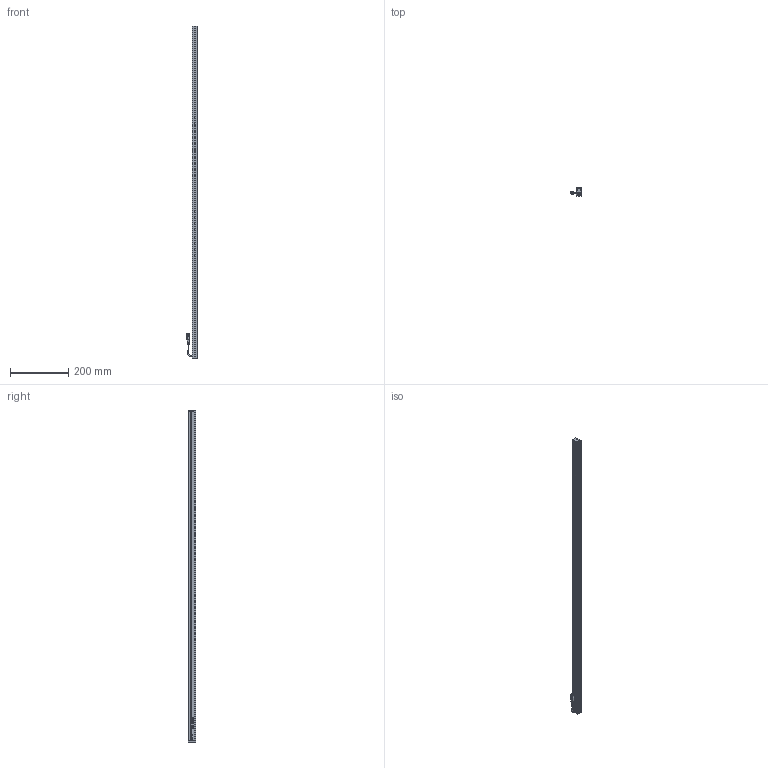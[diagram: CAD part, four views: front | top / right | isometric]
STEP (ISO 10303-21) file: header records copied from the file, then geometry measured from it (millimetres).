
FILE_DESCRIPTION (( 'STEP AP203' ), '1' );
FILE_NAME ('CK-BL113718.STEP', '2025-12-27T00:56:27', ( '' ), ( '' ), 'SwSTEP 2.0', 'SolidWorks 2022', '' );
FILE_SCHEMA (( 'CONFIG_CONTROL_DESIGN' ));
Length unit declared in the file: millimetre
Products named in the file (6): CK-BL113718-002A; CK-BL113718-003A; CK-BL113718-001A; CK-BL113718; 光源线-01; 十字沉头螺丝 M2x10
Assembly tree (9 placements, depth 2):
  CK-BL113718
    CK-BL113718-001A
    CK-BL113718-002A  x2
    CK-BL113718-003A
    光源线-01
    十字沉头螺丝 M2x10  x4
Bounding box: 37.34 x 27 x 1137 mm (x, y, z)
Volume: 250714.7 mm3; surface area: 247579.9 mm2
Topology: 11 solids, 11 shells, 474 faces, 1231 edges, 780 vertices
Faces by surface type: plane 271, cylinder 149, cone 34, bspline 20
Entity records: 12442 total; most frequent: CARTESIAN_POINT 2514, ORIENTED_EDGE 1936, DIRECTION 1916, EDGE_CURVE 968, LINE 668, VECTOR 668, VERTEX_POINT 626, AXIS2_PLACEMENT_3D 624
